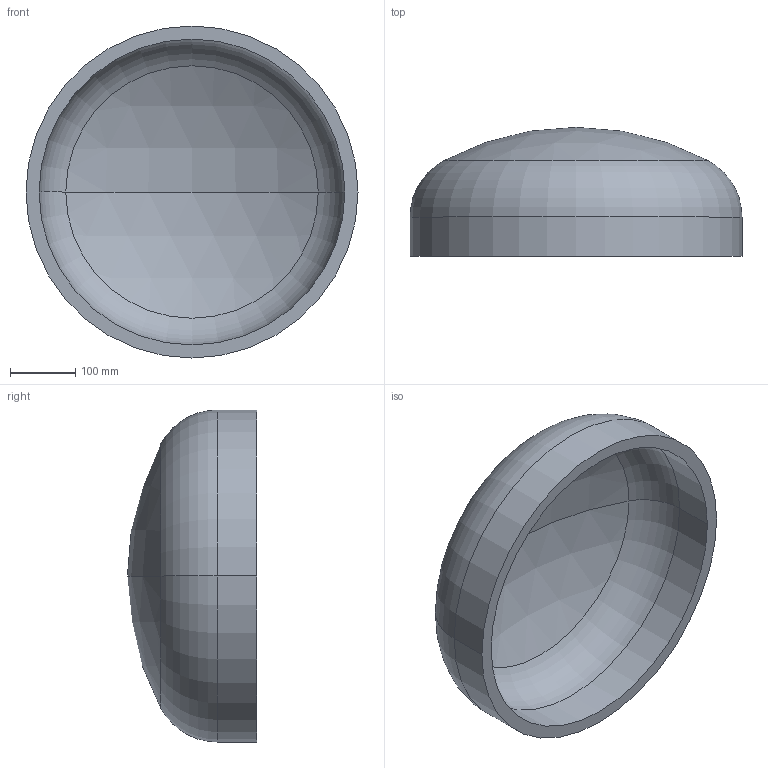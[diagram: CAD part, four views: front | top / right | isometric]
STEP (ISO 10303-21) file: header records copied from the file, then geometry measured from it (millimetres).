
FILE_DESCRIPTION (( 'STEP AP203' ), '1' );
FILE_NAME ('DIN 28013 Korbbogenform_-_Boden DIN 28013 - 508 x 60 - I - s=20.step', '2016-07-01T07:53:03', ( '' ), ( '' ), 'SwSTEP 2.0', 'SolidWorks 2013', '' );
FILE_SCHEMA (( 'CONFIG_CONTROL_DESIGN' ));
Length unit declared in the file: millimetre
Products named in the file (1): DIN 28013 Korbbogenform_-_Boden DIN 28013 - 508 x 60 - I - s=20
Bounding box: 508 x 197.47 x 508 mm (x, y, z)
Volume: 7171762.2 mm3; surface area: 748675.8 mm2
Topology: 1 solids, 1 shells, 13 faces, 24 edges, 14 vertices
Faces by surface type: torus 4, cylinder 4, sphere 4, plane 1
Entity records: 407 total; most frequent: DIRECTION 72, CARTESIAN_POINT 52, ORIENTED_EDGE 48, AXIS2_PLACEMENT_3D 34, EDGE_CURVE 24, CIRCLE 20, VERTEX_POINT 14, EDGE_LOOP 14
